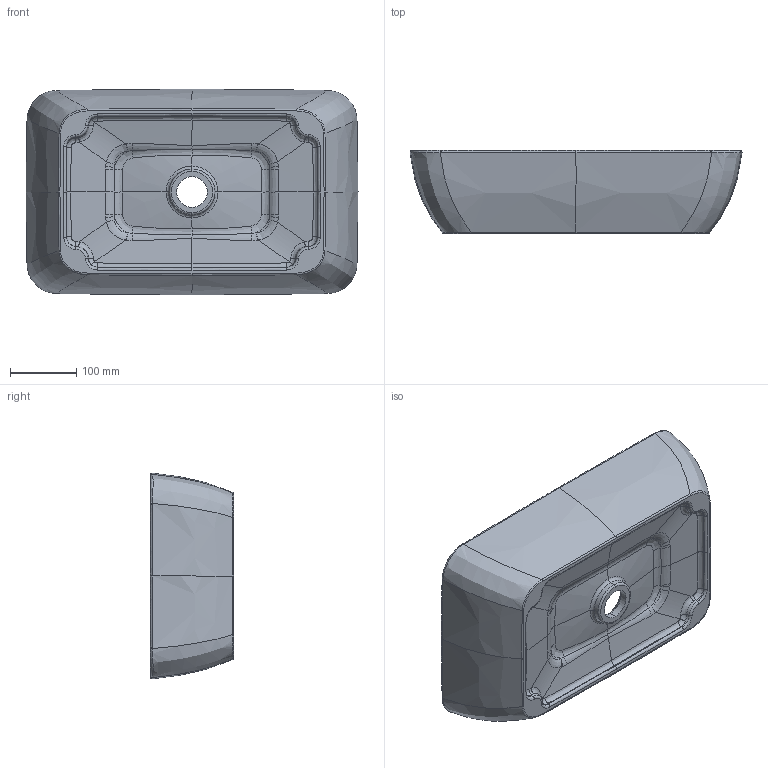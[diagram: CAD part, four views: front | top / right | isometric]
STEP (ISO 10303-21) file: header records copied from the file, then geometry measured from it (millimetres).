
FILE_DESCRIPTION((''),'2;1');
FILE_NAME('UM_KLEO2_01','2019-02-18T',('AX110'),(''),'CREO PARAMETRIC BY PTC INC, 2018220','CREO PARAMETRIC BY PTC INC, 2018220','');
FILE_SCHEMA(('CONFIG_CONTROL_DESIGN'));
Length unit declared in the file: millimetre
Products named in the file (1): UM_KLEO2_01
Bounding box: 499.54 x 125 x 309.57 mm (x, y, z)
Volume: 5178312.2 mm3; surface area: 506395.2 mm2
Topology: 1 solids, 1 shells, 208 faces, 474 edges, 268 vertices
Faces by surface type: bspline 188, torus 8, cone 8, plane 2, cylinder 2
Entity records: 16852 total; most frequent: CARTESIAN_POINT 13434, ORIENTED_EDGE 948, EDGE_CURVE 474, DIRECTION 334, B_SPLINE_CURVE_WITH_KNOTS 316, VERTEX_POINT 268, EDGE_LOOP 210, FACE_OUTER_BOUND 208
